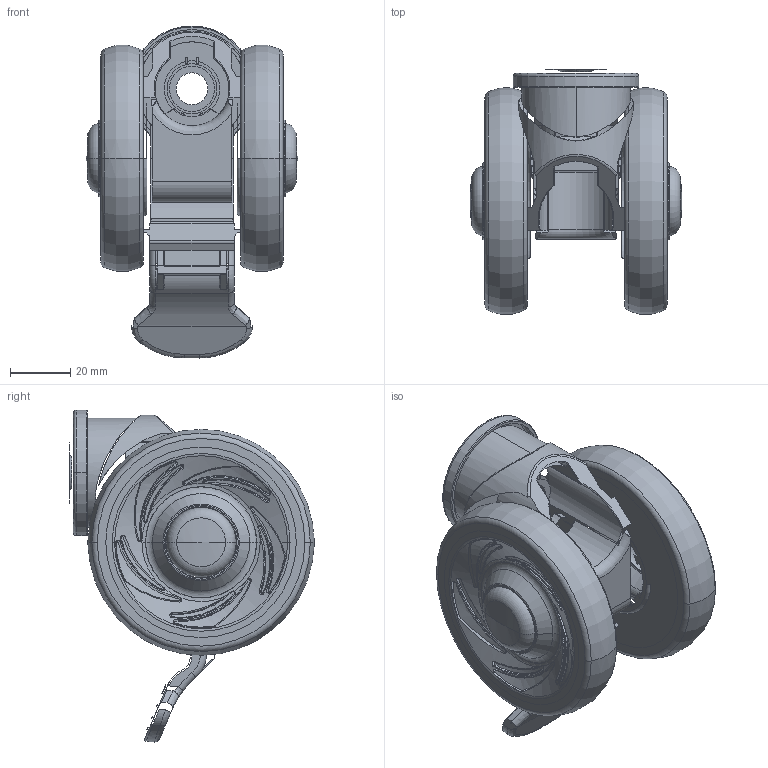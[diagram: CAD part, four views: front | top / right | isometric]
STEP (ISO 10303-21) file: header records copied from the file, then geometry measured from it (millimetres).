
FILE_DESCRIPTION((''),'2;1');
FILE_NAME('PRT0009','2025-06-19T16:48:22',('Administrator'),(''),'CREO PARAMETRIC BY PTC INC, 2022124','CREO PARAMETRIC BY PTC INC, 2022124','');
FILE_SCHEMA(('AP203_CONFIGURATION_CONTROLLED_3D_DESIGN_OF_MECHANICAL_PARTS_AND_ASSEMBLIES_MIM_LF { 1 0 10303 403 2 1 2 }'));
Length unit declared in the file: millimetre
Products named in the file (1): PRT0009
Bounding box: 69.99 x 81 x 109.77 mm (x, y, z)
Surface area: 33580.1 mm2 (no closed solid volume)
Topology: 0 solids, 61 shells, 233 faces, 1456 edges, 1265 vertices
Faces by surface type: bspline 66, plane 55, torus 50, cylinder 48, cone 10, sphere 4
Entity records: 23516 total; most frequent: CARTESIAN_POINT 12331, ORIENTED_EDGE 1737, DIRECTION 1603, EDGE_CURVE 1452, VERTEX_POINT 1265, B_SPLINE_CURVE_WITH_KNOTS 657, AXIS2_PLACEMENT_3D 628, CIRCLE 451
